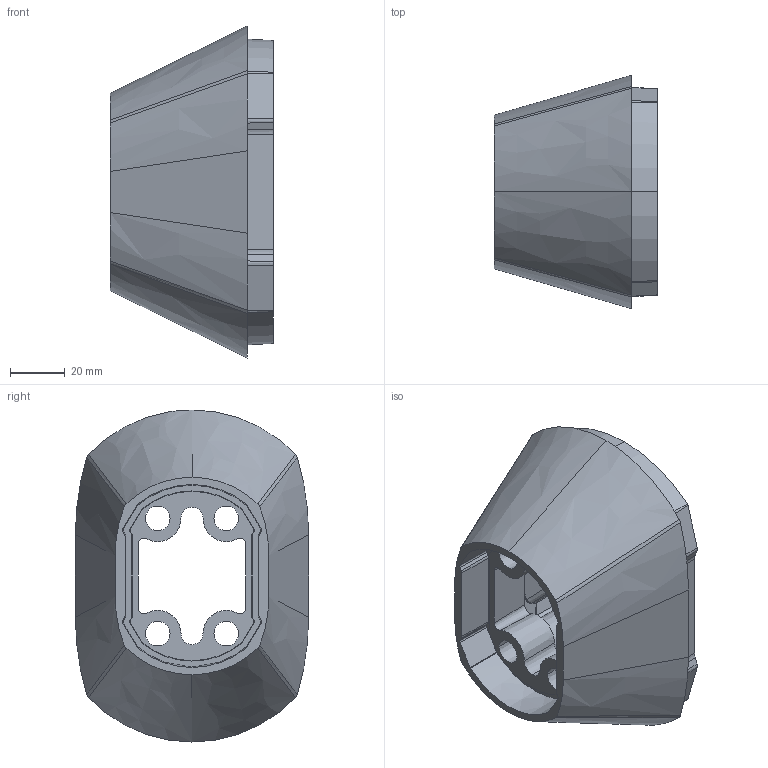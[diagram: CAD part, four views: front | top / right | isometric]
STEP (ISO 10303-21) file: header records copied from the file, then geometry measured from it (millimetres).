
FILE_DESCRIPTION((''),'2;1');
FILE_NAME('75-110-50_65','2024-03-06T19:04:52',('Administrator'),(''),'CREO PARAMETRIC BY PTC INC, 2019010','CREO PARAMETRIC BY PTC INC, 2019010','');
FILE_SCHEMA(('CONFIG_CONTROL_DESIGN','SHAPE_APPEARANCE_LAYERS_GROUPS'));
Length unit declared in the file: millimetre
Products named in the file (1): 75-110-50_65
Bounding box: 59.98 x 85.42 x 121.61 mm (x, y, z)
Surface area: 45434.8 mm2
Topology: 2 solids, 5 shells, 238 faces, 661 edges, 425 vertices
Faces by surface type: bspline 62, plane 56, cone 52, cylinder 44, sphere 20, torus 4
Entity records: 11255 total; most frequent: CARTESIAN_POINT 4431, ORIENTED_EDGE 1278, COLOUR_RGB 1251, DIRECTION 940, EDGE_CURVE 649, VERTEX_POINT 425, AXIS2_PLACEMENT_3D 357, EDGE_LOOP 256
